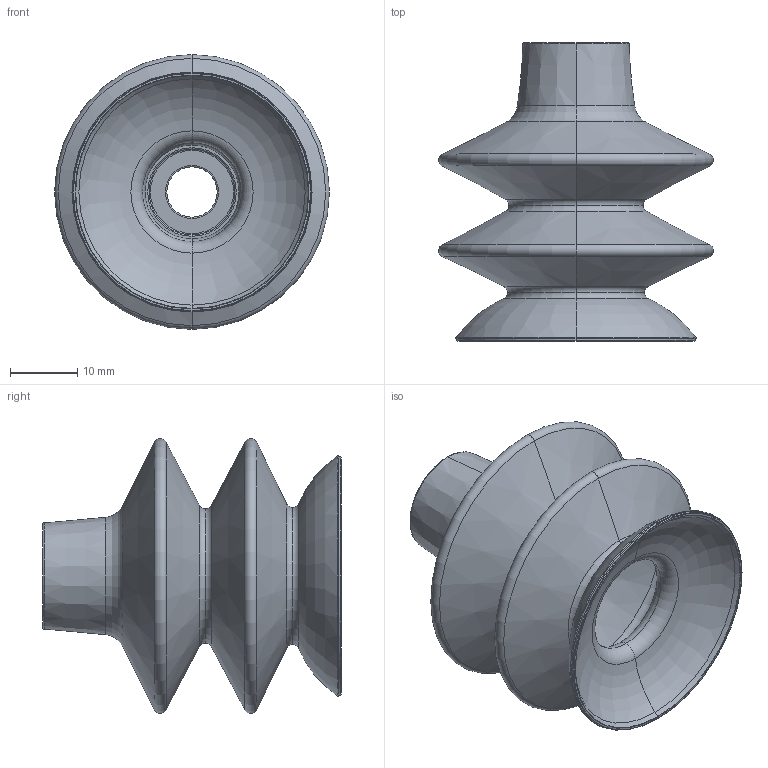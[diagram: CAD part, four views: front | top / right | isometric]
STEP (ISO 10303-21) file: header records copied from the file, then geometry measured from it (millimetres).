
FILE_DESCRIPTION (( 'STEP AP203' ), '1' );
FILE_NAME ('2_36--A.STEP', '2017-04-14T12:08:40', ( '' ), ( '' ), 'SwSTEP 2.0', 'SolidWorks 2016', '' );
FILE_SCHEMA (( 'CONFIG_CONTROL_DESIGN' ));
Length unit declared in the file: millimetre
Products named in the file (1): 2_36--A
Bounding box: 41 x 44.5 x 41 mm (x, y, z)
Volume: 14719.2 mm3; surface area: 11148.4 mm2
Topology: 1 solids, 1 shells, 75 faces, 150 edges, 80 vertices
Faces by surface type: torus 46, cone 18, cylinder 6, plane 5
Entity records: 2031 total; most frequent: DIRECTION 428, CARTESIAN_POINT 306, ORIENTED_EDGE 300, AXIS2_PLACEMENT_3D 202, EDGE_CURVE 150, CIRCLE 126, EDGE_LOOP 80, VERTEX_POINT 80
